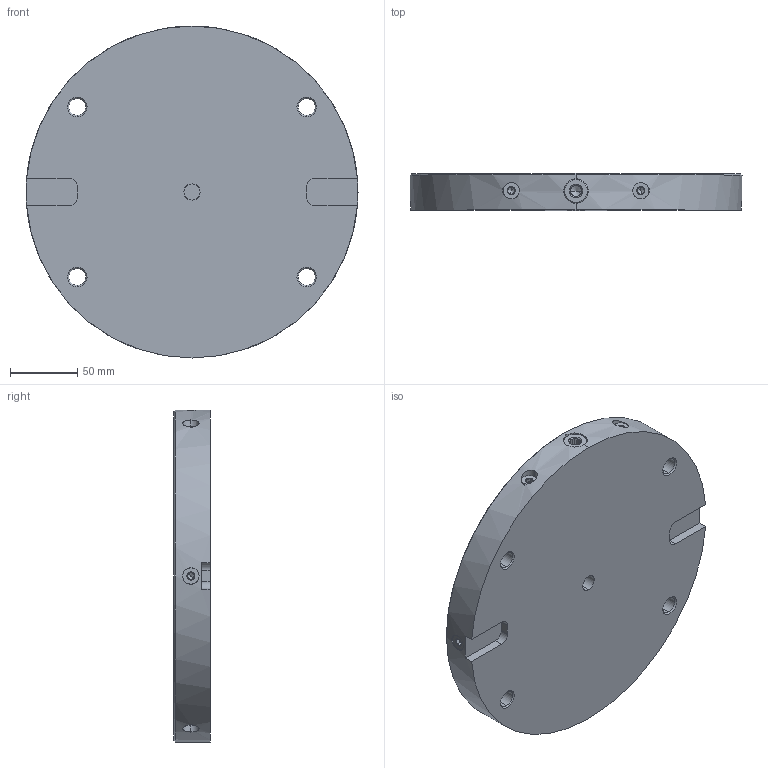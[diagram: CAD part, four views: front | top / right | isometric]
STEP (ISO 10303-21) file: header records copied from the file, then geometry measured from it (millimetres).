
FILE_DESCRIPTION (( 'STEP AP214' ), '1' );
FILE_NAME ('45863.STEP', '2018-04-04T07:53:08', ( '' ), ( '' ), 'SwSTEP 2.0', 'SolidWorks 2015', '' );
FILE_SCHEMA (( 'AUTOMOTIVE_DESIGN' ));
Length unit declared in the file: millimetre
Products named in the file (1): 45863
Bounding box: 246 x 27 x 246 mm (x, y, z)
Volume: 1140409.1 mm3; surface area: 157511.2 mm2
Topology: 8 solids, 8 shells, 331 faces, 795 edges, 471 vertices
Faces by surface type: plane 127, cone 96, cylinder 90, torus 16, sphere 2
Entity records: 14814 total; most frequent: CARTESIAN_POINT 3503, DIRECTION 1597, ORIENTED_EDGE 1562, EDGE_CURVE 781, AXIS2_PLACEMENT_3D 622, VERTEX_POINT 471, EDGE_LOOP 366, LINE 353
